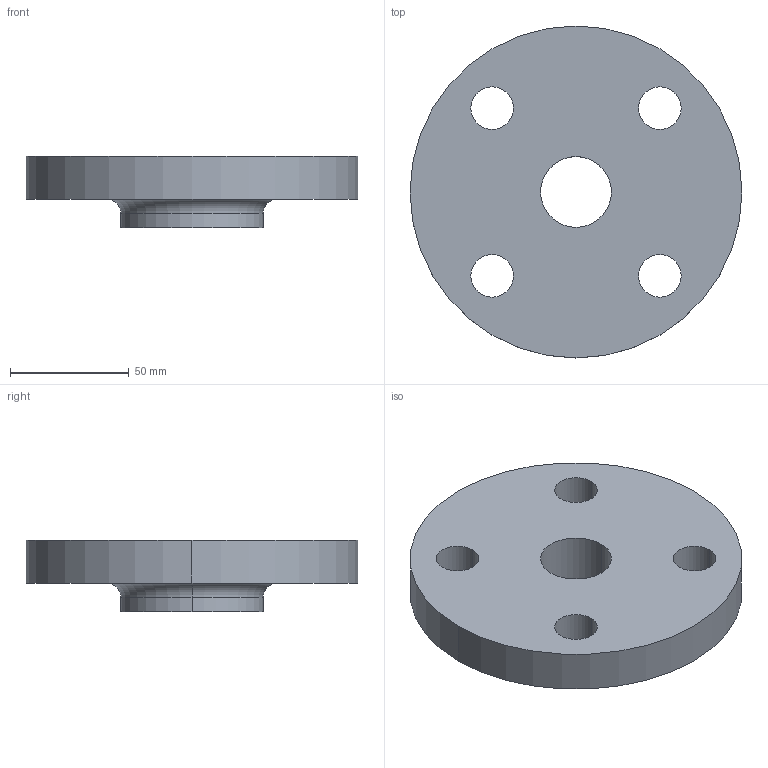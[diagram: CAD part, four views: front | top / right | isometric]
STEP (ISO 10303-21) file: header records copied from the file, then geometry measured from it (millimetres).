
FILE_DESCRIPTION (( 'STEP AP214' ), '1' );
FILE_NAME ('PN40 DN32 Type 13 - Type A Face.STEP', '2018-12-29T23:54:50', ( '' ), ( '' ), 'SwSTEP 2.0', 'SolidWorks 2019', '' );
FILE_SCHEMA (( 'AUTOMOTIVE_DESIGN' ));
Length unit declared in the file: millimetre
Products named in the file (1): PN40 DN32 Type 13 - Type A Face
Bounding box: 140 x 140 x 30 mm (x, y, z)
Volume: 273244.1 mm3; surface area: 43946.4 mm2
Topology: 1 solids, 1 shells, 19 faces, 46 edges, 30 vertices
Faces by surface type: cylinder 14, plane 3, torus 2
Entity records: 630 total; most frequent: DIRECTION 118, CARTESIAN_POINT 96, ORIENTED_EDGE 92, AXIS2_PLACEMENT_3D 52, EDGE_CURVE 46, CIRCLE 32, VERTEX_POINT 30, EDGE_LOOP 30
